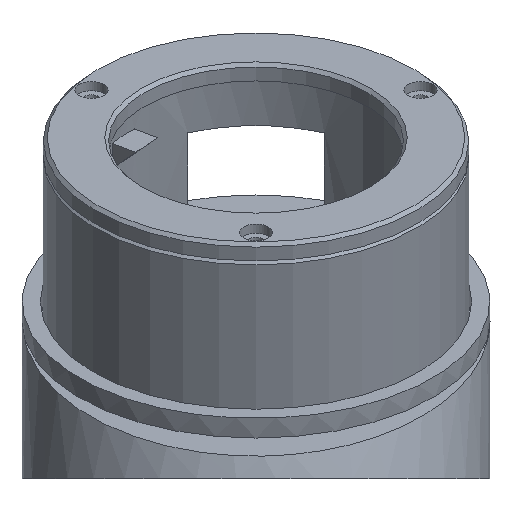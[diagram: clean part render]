
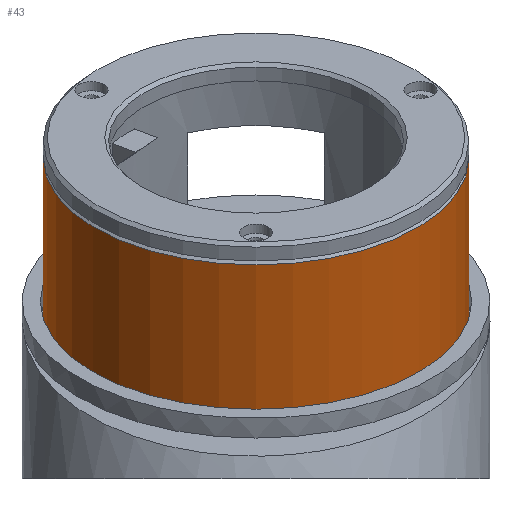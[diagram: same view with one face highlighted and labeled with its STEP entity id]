
A CAD part, front view. The second image highlights one B-rep face of the part: STEP entity #43.
In plain terms, the highlighted cylindrical face has radius 28 mm (diameter 56 mm), a full revolution.
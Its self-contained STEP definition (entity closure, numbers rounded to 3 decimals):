
#43 = ADVANCED_FACE('',(#44,#131),#57,.T.);
#44 = FACE_BOUND('',#45,.F.);
#45 = EDGE_LOOP('',(#46,#80,#103,#130));
#46 = ORIENTED_EDGE('',*,*,#47,.F.);
#47 = EDGE_CURVE('',#48,#48,#50,.T.);
#48 = VERTEX_POINT('',#49);
#49 = CARTESIAN_POINT('',(28.,-0.3,21.302));
#50 = SURFACE_CURVE('',#51,(#56,#68),.PCURVE_S1.);
#51 = CIRCLE('',#52,28.);
#52 = AXIS2_PLACEMENT_3D('',#53,#54,#55);
#53 = CARTESIAN_POINT('',(0.,-0.3,21.302));
#54 = DIRECTION('',(0.,-0.5,0.866));
#55 = DIRECTION('',(1.,0.,0.));
#56 = PCURVE('',#57,#62);
#57 = CYLINDRICAL_SURFACE('',#58,28.);
#58 = AXIS2_PLACEMENT_3D('',#59,#60,#61);
#59 = CARTESIAN_POINT('',(0.,0.,20.782));
#60 = DIRECTION('',(-0.,0.5,-0.866));
#61 = DIRECTION('',(1.,0.,0.));
#62 = DEFINITIONAL_REPRESENTATION('',(#63),#67);
#63 = LINE('',#64,#65);
#64 = CARTESIAN_POINT('',(-0.,-0.6));
#65 = VECTOR('',#66,1.);
#66 = DIRECTION('',(-1.,0.));
#67 = ( GEOMETRIC_REPRESENTATION_CONTEXT(2) 
PARAMETRIC_REPRESENTATION_CONTEXT() REPRESENTATION_CONTEXT('2D SPACE',''
  ) );
#68 = PCURVE('',#69,#74);
#69 = CONICAL_SURFACE('',#70,28.,0.785);
#70 = AXIS2_PLACEMENT_3D('',#71,#72,#73);
#71 = CARTESIAN_POINT('',(0.,-0.3,21.302));
#72 = DIRECTION('',(0.,-0.5,0.866));
#73 = DIRECTION('',(1.,0.,0.));
#74 = DEFINITIONAL_REPRESENTATION('',(#75),#79);
#75 = LINE('',#76,#77);
#76 = CARTESIAN_POINT('',(0.,-0.));
#77 = VECTOR('',#78,1.);
#78 = DIRECTION('',(1.,-0.));
#79 = ( GEOMETRIC_REPRESENTATION_CONTEXT(2) 
PARAMETRIC_REPRESENTATION_CONTEXT() REPRESENTATION_CONTEXT('2D SPACE',''
  ) );
#80 = ORIENTED_EDGE('',*,*,#81,.T.);
#81 = EDGE_CURVE('',#48,#82,#84,.T.);
#82 = VERTEX_POINT('',#83);
#83 = CARTESIAN_POINT('',(28.,-12.35,42.173));
#84 = SEAM_CURVE('',#85,(#89,#96),.PCURVE_S1.);
#85 = LINE('',#86,#87);
#86 = CARTESIAN_POINT('',(28.,0.,20.782));
#87 = VECTOR('',#88,1.);
#88 = DIRECTION('',(0.,-0.5,0.866));
#89 = PCURVE('',#57,#90);
#90 = DEFINITIONAL_REPRESENTATION('',(#91),#95);
#91 = LINE('',#92,#93);
#92 = CARTESIAN_POINT('',(-6.283,0.));
#93 = VECTOR('',#94,1.);
#94 = DIRECTION('',(-0.,-1.));
#95 = ( GEOMETRIC_REPRESENTATION_CONTEXT(2) 
PARAMETRIC_REPRESENTATION_CONTEXT() REPRESENTATION_CONTEXT('2D SPACE',''
  ) );
#96 = PCURVE('',#57,#97);
#97 = DEFINITIONAL_REPRESENTATION('',(#98),#102);
#98 = LINE('',#99,#100);
#99 = CARTESIAN_POINT('',(-0.,0.));
#100 = VECTOR('',#101,1.);
#101 = DIRECTION('',(-0.,-1.));
#102 = ( GEOMETRIC_REPRESENTATION_CONTEXT(2) 
PARAMETRIC_REPRESENTATION_CONTEXT() REPRESENTATION_CONTEXT('2D SPACE',''
  ) );
#103 = ORIENTED_EDGE('',*,*,#104,.T.);
#104 = EDGE_CURVE('',#82,#82,#105,.T.);
#105 = SURFACE_CURVE('',#106,(#111,#118),.PCURVE_S1.);
#106 = CIRCLE('',#107,28.);
#107 = AXIS2_PLACEMENT_3D('',#108,#109,#110);
#108 = CARTESIAN_POINT('',(0.,-12.35,42.173));
#109 = DIRECTION('',(0.,-0.5,0.866));
#110 = DIRECTION('',(1.,0.,0.));
#111 = PCURVE('',#57,#112);
#112 = DEFINITIONAL_REPRESENTATION('',(#113),#117);
#113 = LINE('',#114,#115);
#114 = CARTESIAN_POINT('',(-0.,-24.7));
#115 = VECTOR('',#116,1.);
#116 = DIRECTION('',(-1.,0.));
#117 = ( GEOMETRIC_REPRESENTATION_CONTEXT(2) 
PARAMETRIC_REPRESENTATION_CONTEXT() REPRESENTATION_CONTEXT('2D SPACE',''
  ) );
#118 = PCURVE('',#119,#124);
#119 = CONICAL_SURFACE('',#120,28.,0.785);
#120 = AXIS2_PLACEMENT_3D('',#121,#122,#123);
#121 = CARTESIAN_POINT('',(0.,-12.35,42.173));
#122 = DIRECTION('',(-0.,0.5,-0.866));
#123 = DIRECTION('',(1.,0.,0.));
#124 = DEFINITIONAL_REPRESENTATION('',(#125),#129);
#125 = LINE('',#126,#127);
#126 = CARTESIAN_POINT('',(-0.,-0.));
#127 = VECTOR('',#128,1.);
#128 = DIRECTION('',(-1.,-0.));
#129 = ( GEOMETRIC_REPRESENTATION_CONTEXT(2) 
PARAMETRIC_REPRESENTATION_CONTEXT() REPRESENTATION_CONTEXT('2D SPACE',''
  ) );
#130 = ORIENTED_EDGE('',*,*,#81,.F.);
#131 = FACE_BOUND('',#132,.F.);
#132 = EDGE_LOOP('',(#133,#163,#196,#224));
#133 = ORIENTED_EDGE('',*,*,#134,.F.);
#134 = EDGE_CURVE('',#135,#137,#139,.T.);
#135 = VERTEX_POINT('',#136);
#136 = CARTESIAN_POINT('',(-9.,14.462,48.762));
#137 = VERTEX_POINT('',#138);
#138 = CARTESIAN_POINT('',(-9.,21.462,36.638));
#139 = SURFACE_CURVE('',#140,(#144,#151),.PCURVE_S1.);
#140 = LINE('',#141,#142);
#141 = CARTESIAN_POINT('',(-9.,22.962,34.039));
#142 = VECTOR('',#143,1.);
#143 = DIRECTION('',(-0.,0.5,-0.866));
#144 = PCURVE('',#57,#145);
#145 = DEFINITIONAL_REPRESENTATION('',(#146),#150);
#146 = LINE('',#147,#148);
#147 = CARTESIAN_POINT('',(-1.898,0.));
#148 = VECTOR('',#149,1.);
#149 = DIRECTION('',(-0.,1.));
#150 = ( GEOMETRIC_REPRESENTATION_CONTEXT(2) 
PARAMETRIC_REPRESENTATION_CONTEXT() REPRESENTATION_CONTEXT('2D SPACE',''
  ) );
#151 = PCURVE('',#152,#157);
#152 = PLANE('',#153);
#153 = AXIS2_PLACEMENT_3D('',#154,#155,#156);
#154 = CARTESIAN_POINT('',(-9.,-1.5,23.38));
#155 = DIRECTION('',(1.,0.,0.));
#156 = DIRECTION('',(0.,-0.5,0.866));
#157 = DEFINITIONAL_REPRESENTATION('',(#158),#162);
#158 = LINE('',#159,#160);
#159 = CARTESIAN_POINT('',(-3.,-26.514));
#160 = VECTOR('',#161,1.);
#161 = DIRECTION('',(-1.,0.));
#162 = ( GEOMETRIC_REPRESENTATION_CONTEXT(2) 
PARAMETRIC_REPRESENTATION_CONTEXT() REPRESENTATION_CONTEXT('2D SPACE',''
  ) );
#163 = ORIENTED_EDGE('',*,*,#164,.T.);
#164 = EDGE_CURVE('',#135,#165,#167,.T.);
#165 = VERTEX_POINT('',#166);
#166 = CARTESIAN_POINT('',(9.,14.462,48.762));
#167 = SURFACE_CURVE('',#168,(#173,#180),.PCURVE_S1.);
#168 = CIRCLE('',#169,28.);
#169 = AXIS2_PLACEMENT_3D('',#170,#171,#172);
#170 = CARTESIAN_POINT('',(0.,-8.5,35.505));
#171 = DIRECTION('',(0.,0.5,-0.866));
#172 = DIRECTION('',(1.,0.,0.));
#173 = PCURVE('',#57,#174);
#174 = DEFINITIONAL_REPRESENTATION('',(#175),#179);
#175 = LINE('',#176,#177);
#176 = CARTESIAN_POINT('',(-6.283,-17.));
#177 = VECTOR('',#178,1.);
#178 = DIRECTION('',(1.,-0.));
#179 = ( GEOMETRIC_REPRESENTATION_CONTEXT(2) 
PARAMETRIC_REPRESENTATION_CONTEXT() REPRESENTATION_CONTEXT('2D SPACE',''
  ) );
#180 = PCURVE('',#181,#186);
#181 = PLANE('',#182);
#182 = AXIS2_PLACEMENT_3D('',#183,#184,#185);
#183 = CARTESIAN_POINT('',(-9.,-8.5,35.505));
#184 = DIRECTION('',(0.,-0.5,0.866));
#185 = DIRECTION('',(1.,0.,0.));
#186 = DEFINITIONAL_REPRESENTATION('',(#187),#195);
#187 = ( BOUNDED_CURVE() B_SPLINE_CURVE(2,(#188,#189,#190,#191,#192,#193
,#194),.UNSPECIFIED.,.T.,.F.) B_SPLINE_CURVE_WITH_KNOTS((1,2,2,2,2,1),(
    -2.094,0.,2.094,4.189,6.283,
8.378),.UNSPECIFIED.) CURVE() GEOMETRIC_REPRESENTATION_ITEM() 
RATIONAL_B_SPLINE_CURVE((1.,0.5,1.,0.5,1.,0.5,1.)) REPRESENTATION_ITEM(
  '') );
#188 = CARTESIAN_POINT('',(37.,0.));
#189 = CARTESIAN_POINT('',(37.,-48.497));
#190 = CARTESIAN_POINT('',(-5.,-24.249));
#191 = CARTESIAN_POINT('',(-47.,0.));
#192 = CARTESIAN_POINT('',(-5.,24.249));
#193 = CARTESIAN_POINT('',(37.,48.497));
#194 = CARTESIAN_POINT('',(37.,0.));
#195 = ( GEOMETRIC_REPRESENTATION_CONTEXT(2) 
PARAMETRIC_REPRESENTATION_CONTEXT() REPRESENTATION_CONTEXT('2D SPACE',''
  ) );
#196 = ORIENTED_EDGE('',*,*,#197,.T.);
#197 = EDGE_CURVE('',#165,#198,#200,.T.);
#198 = VERTEX_POINT('',#199);
#199 = CARTESIAN_POINT('',(9.,21.462,36.638));
#200 = SURFACE_CURVE('',#201,(#205,#212),.PCURVE_S1.);
#201 = LINE('',#202,#203);
#202 = CARTESIAN_POINT('',(9.,22.962,34.039));
#203 = VECTOR('',#204,1.);
#204 = DIRECTION('',(-0.,0.5,-0.866));
#205 = PCURVE('',#57,#206);
#206 = DEFINITIONAL_REPRESENTATION('',(#207),#211);
#207 = LINE('',#208,#209);
#208 = CARTESIAN_POINT('',(-1.244,0.));
#209 = VECTOR('',#210,1.);
#210 = DIRECTION('',(-0.,1.));
#211 = ( GEOMETRIC_REPRESENTATION_CONTEXT(2) 
PARAMETRIC_REPRESENTATION_CONTEXT() REPRESENTATION_CONTEXT('2D SPACE',''
  ) );
#212 = PCURVE('',#213,#218);
#213 = PLANE('',#214);
#214 = AXIS2_PLACEMENT_3D('',#215,#216,#217);
#215 = CARTESIAN_POINT('',(9.,-1.5,23.38));
#216 = DIRECTION('',(1.,0.,0.));
#217 = DIRECTION('',(0.,-0.5,0.866));
#218 = DEFINITIONAL_REPRESENTATION('',(#219),#223);
#219 = LINE('',#220,#221);
#220 = CARTESIAN_POINT('',(-3.,-26.514));
#221 = VECTOR('',#222,1.);
#222 = DIRECTION('',(-1.,0.));
#223 = ( GEOMETRIC_REPRESENTATION_CONTEXT(2) 
PARAMETRIC_REPRESENTATION_CONTEXT() REPRESENTATION_CONTEXT('2D SPACE',''
  ) );
#224 = ORIENTED_EDGE('',*,*,#225,.F.);
#225 = EDGE_CURVE('',#137,#198,#226,.T.);
#226 = SURFACE_CURVE('',#227,(#232,#239),.PCURVE_S1.);
#227 = CIRCLE('',#228,28.);
#228 = AXIS2_PLACEMENT_3D('',#229,#230,#231);
#229 = CARTESIAN_POINT('',(0.,-1.5,23.38));
#230 = DIRECTION('',(0.,0.5,-0.866));
#231 = DIRECTION('',(1.,0.,0.));
#232 = PCURVE('',#57,#233);
#233 = DEFINITIONAL_REPRESENTATION('',(#234),#238);
#234 = LINE('',#235,#236);
#235 = CARTESIAN_POINT('',(-6.283,-3.));
#236 = VECTOR('',#237,1.);
#237 = DIRECTION('',(1.,-0.));
#238 = ( GEOMETRIC_REPRESENTATION_CONTEXT(2) 
PARAMETRIC_REPRESENTATION_CONTEXT() REPRESENTATION_CONTEXT('2D SPACE',''
  ) );
#239 = PCURVE('',#240,#245);
#240 = PLANE('',#241);
#241 = AXIS2_PLACEMENT_3D('',#242,#243,#244);
#242 = CARTESIAN_POINT('',(-9.,-1.5,23.38));
#243 = DIRECTION('',(0.,-0.5,0.866));
#244 = DIRECTION('',(1.,0.,0.));
#245 = DEFINITIONAL_REPRESENTATION('',(#246),#254);
#246 = ( BOUNDED_CURVE() B_SPLINE_CURVE(2,(#247,#248,#249,#250,#251,#252
,#253),.UNSPECIFIED.,.T.,.F.) B_SPLINE_CURVE_WITH_KNOTS((1,2,2,2,2,1),(
    -2.094,0.,2.094,4.189,6.283,
8.378),.UNSPECIFIED.) CURVE() GEOMETRIC_REPRESENTATION_ITEM() 
RATIONAL_B_SPLINE_CURVE((1.,0.5,1.,0.5,1.,0.5,1.)) REPRESENTATION_ITEM(
  '') );
#247 = CARTESIAN_POINT('',(37.,0.));
#248 = CARTESIAN_POINT('',(37.,-48.497));
#249 = CARTESIAN_POINT('',(-5.,-24.249));
#250 = CARTESIAN_POINT('',(-47.,0.));
#251 = CARTESIAN_POINT('',(-5.,24.249));
#252 = CARTESIAN_POINT('',(37.,48.497));
#253 = CARTESIAN_POINT('',(37.,0.));
#254 = ( GEOMETRIC_REPRESENTATION_CONTEXT(2) 
PARAMETRIC_REPRESENTATION_CONTEXT() REPRESENTATION_CONTEXT('2D SPACE',''
  ) );
